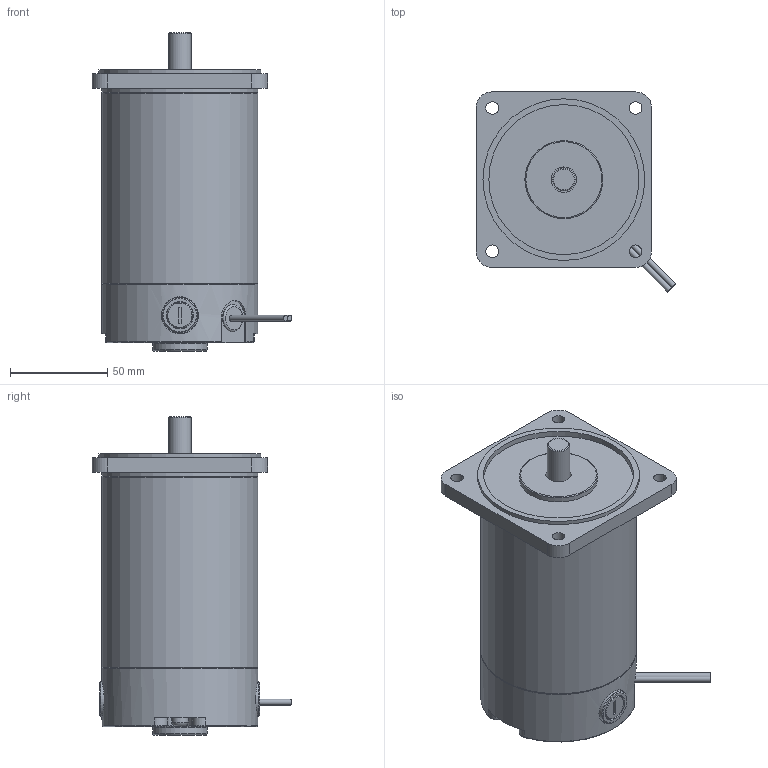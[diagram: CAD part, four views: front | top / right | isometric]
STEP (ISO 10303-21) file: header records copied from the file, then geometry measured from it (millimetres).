
FILE_DESCRIPTION((''),'2;1');
FILE_NAME('C:\Documents and Settings\ycw1227\바탕 화면\S9D60-ㅁCH.stp','2013-06-05T11:00:37',('ycw1227'),(''),'Autodesk Inventor 2011','Autodesk Inventor 2011','');
FILE_SCHEMA(('AUTOMOTIVE_DESIGN { 1 0 10303 214 1 1 1 1 }'));
Length unit declared in the file: millimetre
Products named in the file (1): 부품3
Bounding box: 102.45 x 102.45 x 163.5 mm (x, y, z)
Volume: 718064.5 mm3; surface area: 61241.1 mm2
Topology: 1 solids, 3 shells, 163 faces, 379 edges, 246 vertices
Faces by surface type: plane 87, cylinder 46, torus 16, cone 14
Full cylindrical faces by diameter (mm): 3 x2, 5 x2, 6.5 x4, 8.5 x2, 9 x1, 11.57 x1, 13 x1, 13.5 x2, 14 x3, 18 x2, 19 x2, 28 x1, 40 x1, 77 x1, 80 x3, 83 x1
Entity records: 4702 total; most frequent: CARTESIAN_POINT 942, DIRECTION 765, ORIENTED_EDGE 670, EDGE_CURVE 335, AXIS2_PLACEMENT_3D 305, VERTEX_POINT 242, EDGE_LOOP 236, FACE_OUTER_BOUND 163
